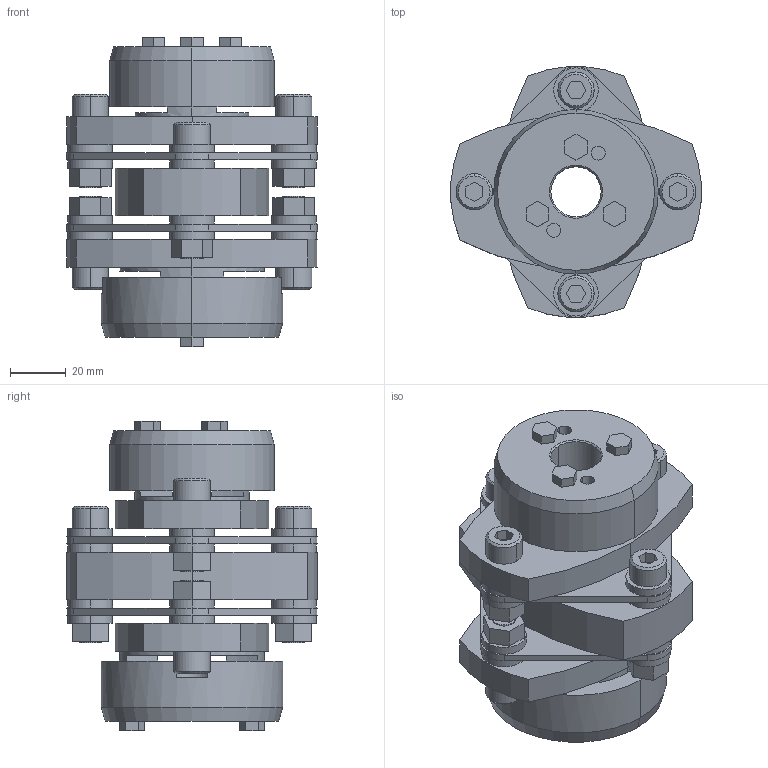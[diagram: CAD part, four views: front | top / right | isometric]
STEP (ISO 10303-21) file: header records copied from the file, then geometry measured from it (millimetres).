
FILE_DESCRIPTION((''),'2;1');
FILE_NAME('LCD-90T7-18×28.stp','2015-11-01T19:21:03',(''),(''),'AutoCAD STEP 2000i','AutoCAD 2000i',', , ');
FILE_SCHEMA(('CONFIG_CONTROL_DESIGN'));
Length unit declared in the file: millimetre
Products named in the file (7): LCD-90T7-19×30; 忣兜1; LC90T7-T030; LC90T7-T025; LC90T7-T019-1; LC90T7-T019; LCD90-ITA
Assembly tree (6 placements, depth 2):
  LCD-90T7-19×30
    忣兜1
    LC90T7-T030
    LC90T7-T025
    LC90T7-T019-1
    LC90T7-T019
    LCD90-ITA
Bounding box: 90 x 89.94 x 111 mm (x, y, z)
Volume: 282434.9 mm3; surface area: 74838.7 mm2
Topology: 1 solids, 1 shells, 317 faces, 774 edges, 508 vertices
Faces by surface type: plane 171, cylinder 122, cone 24
Entity records: 9595 total; most frequent: DIRECTION 1710, CARTESIAN_POINT 1606, ORIENTED_EDGE 1548, EDGE_CURVE 774, AXIS2_PLACEMENT_3D 612, VERTEX_POINT 508, VECTOR 486, LINE 486
